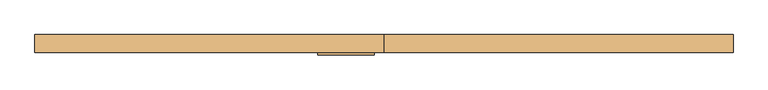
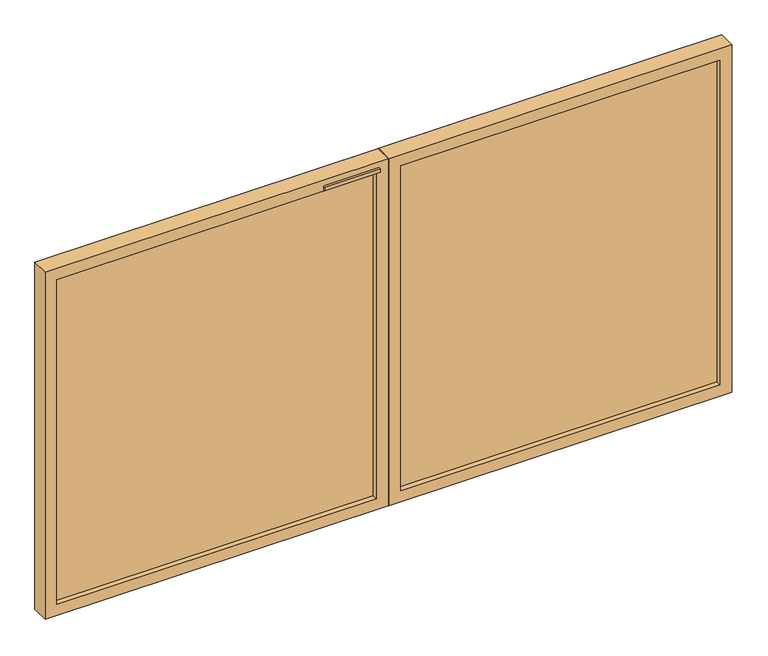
"""IFC4 building model written with IfcOpenShell, lengths in millimetres: door geometry, PORTON_REJA_baja : PORTON_REJA_baja."""

from ifc_helpers import new_model, si_unit, frame, origin, place, context, project, spatial, polyline, outline, extrude, source, transform, mapped, element, save


def door_068d60f1(model_context):
    return source(origin(), model_context, "Body", "SweptSolid", [
        extrude(outline(polyline([(930.0, 0.8168501), (0.0, 0.8168501), (0.0, 870.0), (930.0, 870.0), (930.0, 0.8168501)]), holes=[polyline([(900.0, 30.8168501), (900.0, 840.0), (30.0, 840.0), (30.0, 30.8168501), (900.0, 30.8168501)])]), frame((0.0, -20.0, 0.0), z_axis=(0.0, 1.0, 0.0), x_axis=(0.0, 0.0, 1.0)), (0.0, 0.0, 1.0), 44.45),
        extrude(outline(polyline([(930.0, -0.7706499), (930.0, -870.0), (0.0, -870.0), (0.0, -0.7706499), (930.0, -0.7706499)]), holes=[polyline([(900.0, -840.0), (900.0, -30.7706499), (30.0, -30.7706499), (30.0, -840.0), (900.0, -840.0)])]), frame((0.0, -20.0, 0.0), z_axis=(0.0, 1.0, 0.0), x_axis=(0.0, 0.0, 1.0)), (0.0, 0.0, 1.0), 44.45),
        extrude(outline(polyline([(840.0, 11.75), (840.0, -7.3), (30.8168501, -7.3), (30.8168501, 11.75), (840.0, 11.75)])), frame((0.0, 0.0, 30.0), z_axis=(0.0, 0.0, 1.0), x_axis=(1.0, 0.0, 0.0)), (0.0, 0.0, 1.0), 870.0),
        extrude(outline(polyline([(-30.7706499, 11.75), (-30.7706499, -7.3), (-840.0, -7.3), (-840.0, 11.75), (-30.7706499, 11.75)])), frame((0.0, 0.0, 30.0), z_axis=(0.0, 0.0, 1.0), x_axis=(1.0, 0.0, 0.0)), (0.0, 0.0, 1.0), 870.0),
        extrude(outline(polyline([(-164.9768999, -26.35), (-164.9768999, -20.0), (-24.1521896, -20.0), (-24.1521896, -26.35), (-164.9768999, -26.35)])), frame((0.0, 0.0, 905.3525182), z_axis=(0.0, 0.0, 1.0), x_axis=(1.0, 0.0, 0.0)), (0.0, 0.0, 1.0), 9.6474818),
    ])


if __name__ == "__main__":
    model = new_model("IFC4")
    model_context = context("Model", 3, world=origin())
    ifc_project = project(units=[si_unit("LENGTHUNIT", "METRE", prefix="MILLI")], contexts=[model_context])
    site = spatial("IfcSite", under=ifc_project)
    building = spatial("IfcBuilding", under=site)
    placement = place(None, origin())
    door_shape = door_068d60f1(model_context)
    element("IfcDoor", 1, ObjectType="PORTON_REJA_baja : PORTON_REJA_baja", at=placement, inside=building, context=model_context, shape_type="MappedRepresentation", body=[
        mapped(door_shape, transform((0.0, 0.0, 0.0), x_axis=(1.0, 0.0, 0.0), y_axis=(0.0, 1.0, 0.0), z_axis=(0.0, 0.0, 1.0))),
    ])
    save(model, "model.ifc")
